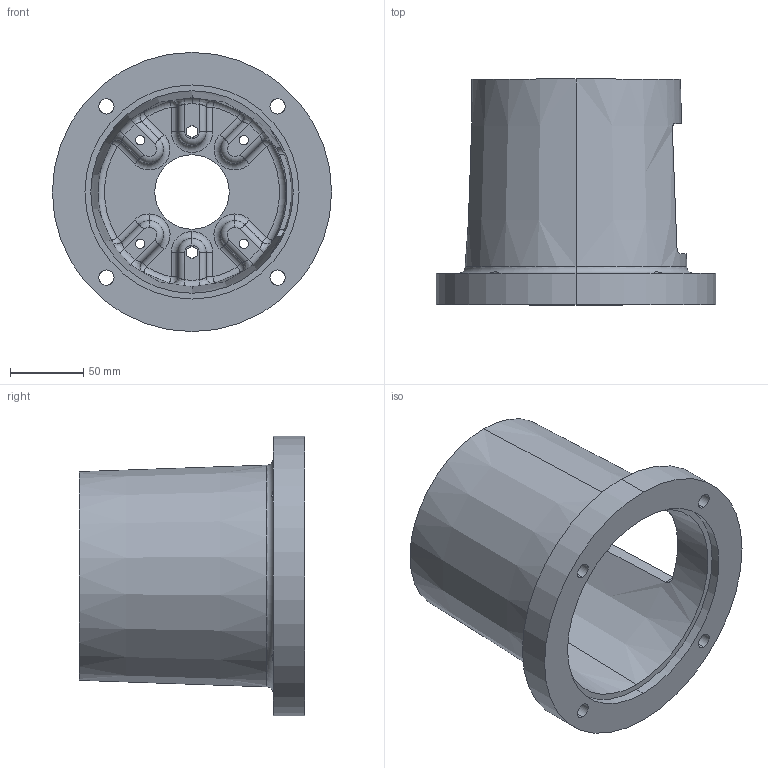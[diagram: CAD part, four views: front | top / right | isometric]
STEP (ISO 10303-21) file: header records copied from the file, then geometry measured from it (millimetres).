
FILE_DESCRIPTION (( 'STEP AP203' ), '1' );
FILE_NAME ('E575602AA.STEP', '2014-11-03T16:07:52', ( '' ), ( '' ), 'SwSTEP 2.0', 'SolidWorks 2014', '' );
FILE_SCHEMA (( 'CONFIG_CONTROL_DESIGN' ));
Length unit declared in the file: inch
Products named in the file (1): E575602AA
Bounding box: 190.5 x 153.92 x 190.5 mm (x, y, z)
Volume: 760890.8 mm3; surface area: 181851.9 mm2
Topology: 1 solids, 1 shells, 163 faces, 405 edges, 231 vertices
Faces by surface type: cylinder 63, torus 33, plane 27, bspline 24, sphere 12, cone 4
Entity records: 6512 total; most frequent: CARTESIAN_POINT 2658, DIRECTION 829, ORIENTED_EDGE 786, EDGE_CURVE 393, AXIS2_PLACEMENT_3D 364, VERTEX_POINT 231, CIRCLE 224, EDGE_LOOP 186
